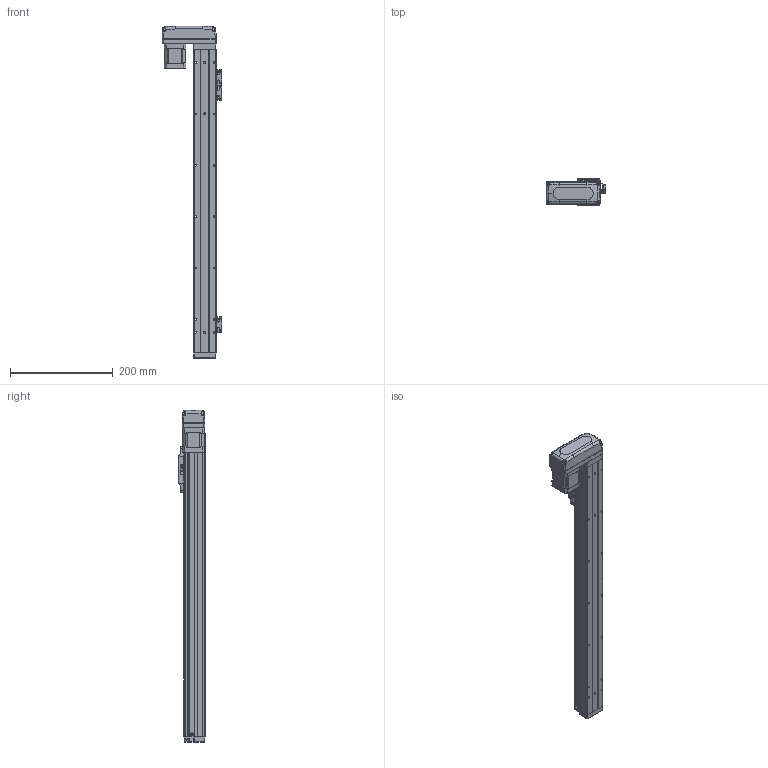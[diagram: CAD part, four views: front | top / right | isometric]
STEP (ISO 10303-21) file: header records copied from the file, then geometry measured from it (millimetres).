
FILE_DESCRIPTION (( 'STEP AP203' ), '1' );
FILE_NAME ('GTH4-450-BR-B42-C4.step', '2023-02-14T00:26:31', ( '微软用户' ), ( '微软中国' ), 'SwSTEP 2.0', 'SolidWorks 2020', '' );
FILE_SCHEMA (( 'CONFIG_CONTROL_DESIGN' ));
Length unit declared in the file: millimetre
Products named in the file (19): BTH50-023; BTH40-013; BTH40-001-50_BTH40-001-450; BTH50-024; GBT 70.3-M3℅6; BTH40-003; GBT 70.1-M3℅6; BTH40-027-1; BTH40-006; GBT96.1-2002 3×0.8; BTH50-026; BTH-M3X5X6; BTH40-022; 42CM06; GBT70.1-2000 M3×16; GBT 70.1-M2.5×6; GTH4-450-BR-B42-C4; BTH50-028; BTH40-004
Assembly tree (47 placements, depth 2):
  GTH4-450-BR-B42-C4
    BTH40-001-50_BTH40-001-450
    BTH40-003
    BTH40-006
    BTH-M3X5X6  x8
    GBT70.1-2000 M3×16  x4
    BTH50-028  x2
    BTH50-023  x3
    BTH50-024  x3
    GBT 70.1-M3℅6  x6
    GBT96.1-2002 3×0.8  x6
    BTH40-022
    GBT 70.1-M2.5×6  x2
    BTH40-004
    BTH40-013
    GBT 70.3-M3℅6  x4
    BTH40-027-1
    BTH50-026
    42CM06
Bounding box: 116.2 x 52 x 646 mm (x, y, z)
Volume: 1150897.3 mm3; surface area: 228765 mm2
Topology: 56 solids, 56 shells, 3339 faces, 7784 edges, 4654 vertices
Faces by surface type: cone 1508, plane 1076, cylinder 577, torus 124, bspline 42, sphere 12
Entity records: 78038 total; most frequent: CARTESIAN_POINT 14065, DIRECTION 13873, ORIENTED_EDGE 12214, EDGE_CURVE 6107, AXIS2_PLACEMENT_3D 5325, VERTEX_POINT 3641, VECTOR 3223, LINE 3223
